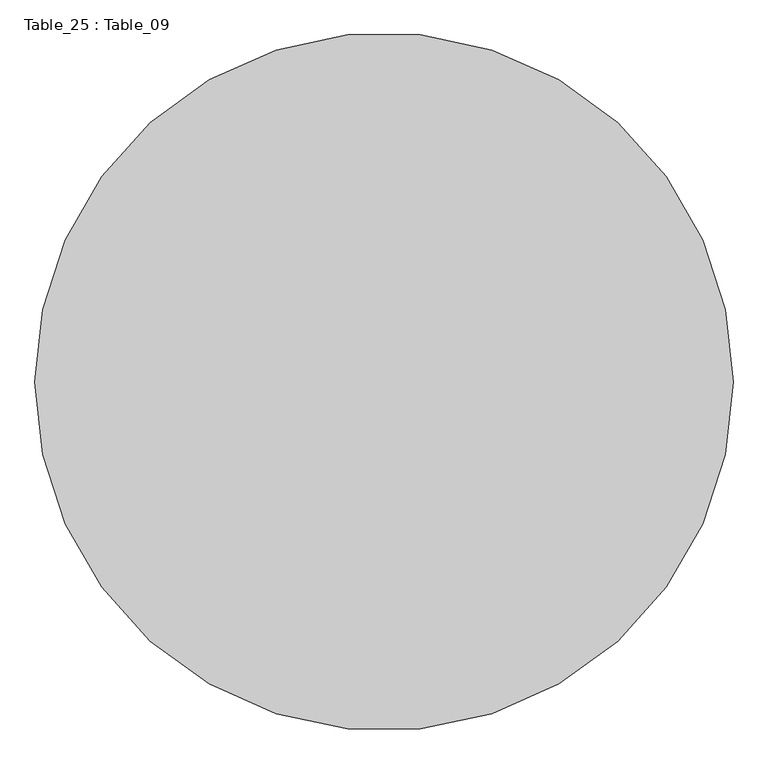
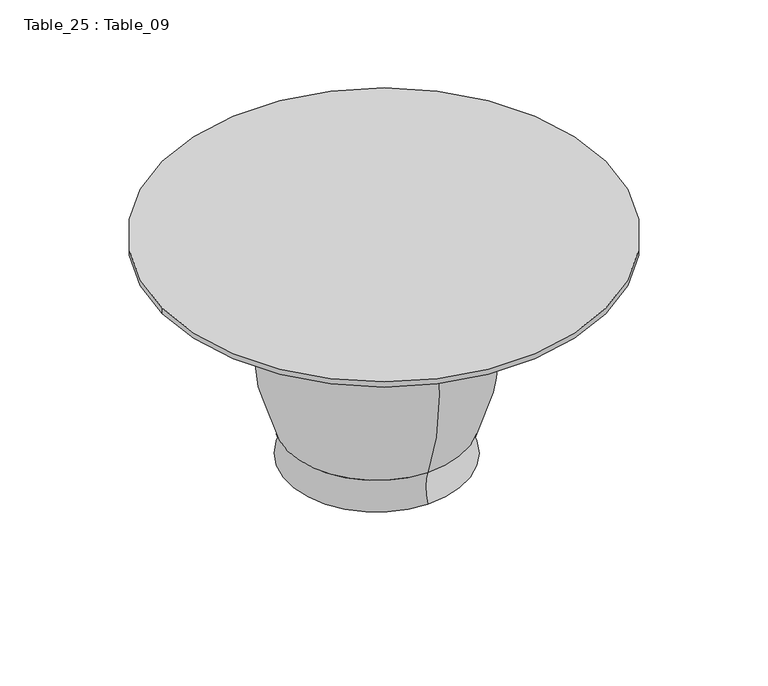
"""IFC4 building model written with IfcOpenShell, lengths in millimetres: furniture geometry, Table_25 : Table_09."""

from ifc_helpers import new_model, si_unit, point, frame, origin, place, context, project, spatial, circle_curve, ellipse_curve, trimmed, source, transform, mapped, element, save
from ifc_brep_helpers import plane_surface, cylinder_surface, revolved_surface, advanced_brep


def table_25_table_09_f3128547(model_context):
    return source(origin(), model_context, "Body", "AdvancedBrep", [
        advanced_brep(
        [(-1002.7357485, 13946.7148245, 4120.3438425), (397.2642515, 13946.7148245, 4120.3438425), (-1002.7357485, 13946.7148245, 4102.6943919), (397.2642515, 13946.7148245, 4102.6943919), (-326.0630614, 14226.7148245, 4102.6943919), (-326.0630614, 13666.7148245, 4102.6943919), (-326.0630614, 13666.7148245, 3400.0), (-326.0630614, 14226.7148245, 3400.0), (-326.0630614, 13946.7148245, 3400.0), (-326.0630614, 13666.7148245, 3505.0), (-326.0630614, 14226.7148245, 3505.0)],
        [
            (0, 1, circle_curve(frame((-302.7357485, 13946.7148245, 4120.3438425), z_axis=(0.0, 0.0, 1.0), x_axis=(1.0, 0.0, 0.0)), 700.0)),
            (1, 0, circle_curve(frame((-302.7357485, 13946.7148245, 4120.3438425), z_axis=(0.0, 0.0, 1.0), x_axis=(1.0, 0.0, 0.0)), 700.0)),
            (2, 3, circle_curve(frame((-302.7357485, 13946.7148245, 4102.6943919), z_axis=(0.0, 0.0, -1.0), x_axis=(1.0, 0.0, 0.0)), 700.0)),
            (3, 2, circle_curve(frame((-302.7357485, 13946.7148245, 4102.6943919), z_axis=(0.0, 0.0, -1.0), x_axis=(1.0, 0.0, 0.0)), 700.0)),
            (4, 5, circle_curve(frame((-326.0630614, 13946.7148245, 4102.6943919), z_axis=(0.0, 0.0, 1.0), x_axis=(0.0, 1.0, 0.0)), 280.0)),
            (5, 4, circle_curve(frame((-326.0630614, 13946.7148245, 4102.6943919), z_axis=(0.0, 0.0, 1.0), x_axis=(0.0, 1.0, 0.0)), 280.0)),
            (0, 2),
            (3, 1),
            (6, 7, circle_curve(frame((-326.0630614, 13946.7148245, 3400.0), z_axis=(0.0, 0.0, -1.0), x_axis=(0.0, 1.0, 0.0)), 280.0)),
            (7, 8),
            (8, 6),
            (7, 6, circle_curve(frame((-326.0630614, 13946.7148245, 3400.0), z_axis=(0.0, 0.0, -1.0), x_axis=(0.0, 1.0, 0.0)), 280.0)),
            (6, 9, circle_curve(frame((-326.0630614, 13546.4641161, 3452.5), z_axis=(1.0, 0.0, 0.0), x_axis=(0.0, 1.0, 0.0)), 131.2115958)),
            (9, 10, circle_curve(frame((-326.0630614, 13946.7148245, 3505.0), z_axis=(0.0, 0.0, -1.0), x_axis=(0.0, 1.0, 0.0)), 280.0)),
            (10, 7, circle_curve(frame((-326.0630614, 14346.9655329, 3452.5), z_axis=(1.0, 0.0, 0.0), x_axis=(0.0, -1.0, 0.0)), 131.2115958)),
            (10, 9, circle_curve(frame((-326.0630614, 13946.7148245, 3505.0), z_axis=(0.0, 0.0, -1.0), x_axis=(0.0, 1.0, 0.0)), 280.0)),
            (9, 5, circle_curve(frame((-326.0630614, 14351.221244, 3803.847196), z_axis=(-1.0, 0.0, 0.0), x_axis=(0.0, 1.0, 0.0)), 746.8993807)),
            (4, 10, circle_curve(frame((-326.0630614, 13542.2084049, 3803.847196), z_axis=(-1.0, 0.0, 0.0), x_axis=(0.0, -1.0, 0.0)), 746.8993807)),
        ],
        [
            plane_surface(frame((397.2642515, 13946.7148245, 4120.3438425), z_axis=(0.0, 0.0, 1.0), x_axis=(0.0, 1.0, 0.0))),
            plane_surface(frame((397.2642515, 13946.7148245, 4102.6943919), z_axis=(0.0, 0.0, -1.0), x_axis=(0.0, -1.0, 0.0))),
            cylinder_surface(frame((-302.7357485, 13946.7148245, 4102.6943919), z_axis=(0.0, 0.0, 1.0), x_axis=(1.0, 0.0, 0.0)), 700.0),
            plane_surface(frame((-326.0630614, 13946.7148245, 3400.0), z_axis=(0.0, 0.0, -1.0), x_axis=(0.0, 1.0, 0.0))),
            revolved_surface(trimmed(ellipse_curve(frame((-326.0630614, 14346.9655329, 3452.5), z_axis=(-1.0, 0.0, 0.0), x_axis=(0.0, -1.0, 0.0)), 131.2115958, 131.2115958), [point((-326.0630614, 14226.7148245, 3400.0))], [point((-326.0630614, 14226.7148245, 3505.0))], True, "CARTESIAN"), (-326.0630614, 13946.7148245, 4102.6943919), (0.0, 0.0, 1.0)),
            revolved_surface(trimmed(ellipse_curve(frame((-326.0630614, 13542.2084049, 3803.847196), z_axis=(1.0, 0.0, 0.0), x_axis=(0.0, -1.0, 0.0)), 746.8993807, 746.8993807), [point((-326.0630614, 14226.7148245, 3505.0))], [point((-326.0630614, 14226.7148245, 4102.6943919))], True, "CARTESIAN"), (-326.0630614, 13946.7148245, 4102.6943919), (0.0, 0.0, 1.0)),
        ],
        [
            (0, [[1, 2]]),
            (1, [[3, 4], [5, 6]]),
            (2, [[-1, 7, -4, 8]]),
            (2, [[-2, -8, -3, -7]]),
            (3, [[9, 10, 11]]),
            (3, [[-10, 12, -11]]),
            (4, [[-9, 13, 14, 15]]),
            (4, [[-12, -15, 16, -13]]),
            (5, [[-14, 17, -5, 18]]),
            (5, [[-16, -18, -6, -17]]),
        ],
    ),
    ])


if __name__ == "__main__":
    model = new_model("IFC4")
    model_context = context("Model", 3, world=origin())
    ifc_project = project(units=[si_unit("LENGTHUNIT", "METRE", prefix="MILLI")], contexts=[model_context])
    site = spatial("IfcSite", under=ifc_project)
    building = spatial("IfcBuilding", under=site)
    placement = place(None, origin())
    table_25_table_09_shape = table_25_table_09_f3128547(model_context)
    element("IfcFurniture", 1, ObjectType="Table_25 : Table_09", at=placement, inside=building, context=model_context, shape_type="MappedRepresentation", body=[
        mapped(table_25_table_09_shape, transform((0.0, 0.0, 0.0), x_axis=(1.0, 0.0, 0.0), y_axis=(0.0, 1.0, 0.0), z_axis=(0.0, 0.0, 1.0))),
    ])
    save(model, "model.ifc")
